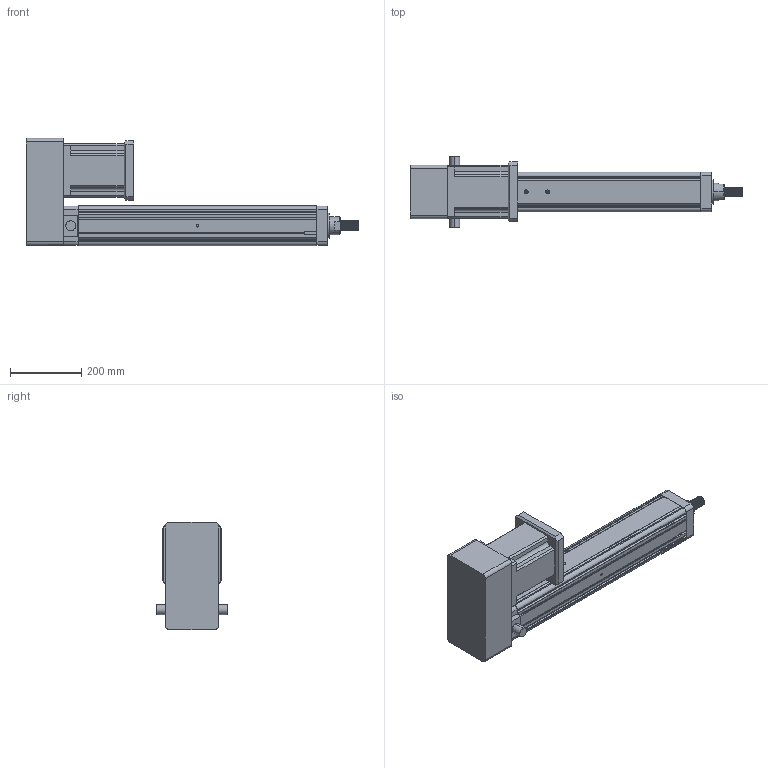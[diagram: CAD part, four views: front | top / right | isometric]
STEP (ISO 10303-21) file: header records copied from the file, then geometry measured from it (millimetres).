
FILE_DESCRIPTION (( 'STEP AP203' ), '1' );
FILE_NAME ('YRJ110-L500-H4K1.STEP', '2020-01-06T01:15:32', ( 'User' ), ( 'China' ), 'SwSTEP 2.0', 'SolidWorks 2016', '' );
FILE_SCHEMA (( 'CONFIG_CONTROL_DESIGN' ));
Length unit declared in the file: millimetre
Products named in the file (7): 萇儂碟-110; H5-110-1; YRJ110-L500-H4K1; H5-110-2; 095-100俴最倰第; K1-110; 142熬厒儂
Assembly tree (6 placements, depth 2):
  YRJ110-L500-H4K1
    095-100俴最倰第
    142熬厒儂
    H5-110-1
    H5-110-2
    K1-110
    萇儂碟-110
Bounding box: 931 x 200 x 300.5 mm (x, y, z)
Volume: 12593408.2 mm3; surface area: 1074620.8 mm2
Topology: 6 solids, 6 shells, 364 faces, 1001 edges, 648 vertices
Faces by surface type: plane 177, cylinder 156, cone 27, bspline 4
Entity records: 20204 total; most frequent: CARTESIAN_POINT 10355, ORIENTED_EDGE 1970, DIRECTION 1829, EDGE_CURVE 985, VERTEX_POINT 648, LINE 625, VECTOR 625, AXIS2_PLACEMENT_3D 602
